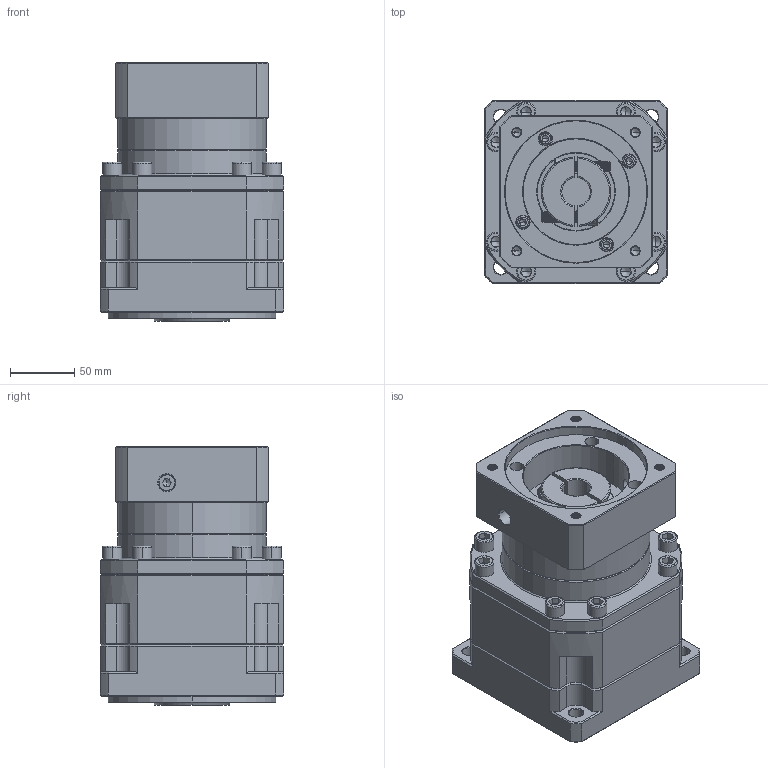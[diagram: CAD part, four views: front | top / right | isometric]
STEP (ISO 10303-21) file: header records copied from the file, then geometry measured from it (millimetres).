
FILE_DESCRIPTION (( 'STEP AP214' ), '1' );
FILE_NAME ('ZB142A-K35-L2-P2-22-110-130-M8.step', '2023-09-02T02:53:37', ( '' ), ( '' ), 'SwSTEP 2.0', 'SolidWorks 2016', '' );
FILE_SCHEMA (( 'AUTOMOTIVE_DESIGN' ));
Length unit declared in the file: millimetre
Products named in the file (1): ZB142A-K35-L2-P2-22-110-130-M8
Bounding box: 142 x 142 x 200.7 mm (x, y, z)
Volume: 2782725.3 mm3; surface area: 233463.9 mm2
Topology: 6 solids, 6 shells, 2500 faces, 6566 edges, 4191 vertices
Faces by surface type: plane 1198, cylinder 453, bspline 418, cone 395, torus 36
Entity records: 129773 total; most frequent: CARTESIAN_POINT 43744, ORIENTED_EDGE 13028, DIRECTION 10702, EDGE_CURVE 6514, VERTEX_POINT 4191, LINE 4164, VECTOR 4164, AXIS2_PLACEMENT_3D 3269
